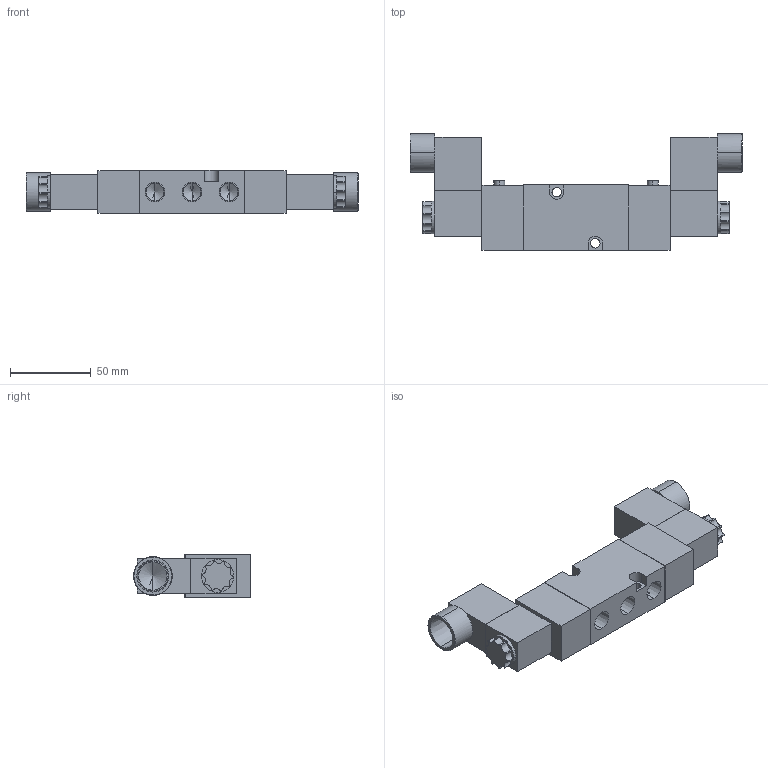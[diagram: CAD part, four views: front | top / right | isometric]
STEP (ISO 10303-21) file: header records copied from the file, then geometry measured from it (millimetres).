
FILE_DESCRIPTION (( 'STEP AP214' ), '1' );
FILE_NAME ('TVCS-X421-4N-XXX.STEP', '2025-05-08T14:23:22', ( '' ), ( '' ), 'SwSTEP 2.0', 'SolidWorks 2023', '' );
FILE_SCHEMA (( 'AUTOMOTIVE_DESIGN' ));
Length unit declared in the file: inch
Products named in the file (5): 18607; 18609; TVCS-X421-4N-XXX; round head screw_ai_CR-RHMS 0.112-40x0.5x0.5-N; #4_RHCS_0.5Long
Assembly tree (7 placements, depth 2):
  TVCS-X421-4N-XXX
    18607
    18609  x2
    #4_RHCS_0.5Long  x3
    round head screw_ai_CR-RHMS 0.112-40x0.5x0.5-N
Bounding box: 204.98 x 72.2 x 27 mm (x, y, z)
Volume: 197318.3 mm3; surface area: 47011.8 mm2
Topology: 7 solids, 7 shells, 289 faces, 692 edges, 439 vertices
Faces by surface type: plane 137, cylinder 108, cone 32, torus 10, sphere 2
Entity records: 5418 total; most frequent: DIRECTION 972, CARTESIAN_POINT 960, ORIENTED_EDGE 832, EDGE_CURVE 416, AXIS2_PLACEMENT_3D 379, VERTEX_POINT 269, LINE 214, VECTOR 214
